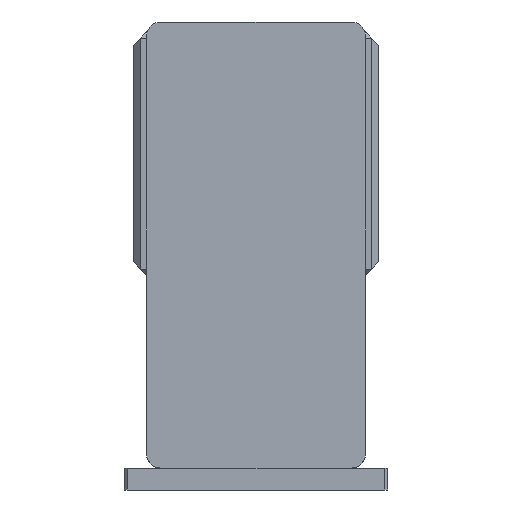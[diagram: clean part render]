
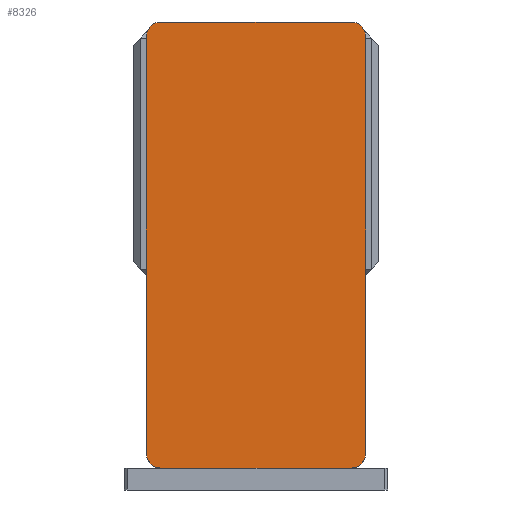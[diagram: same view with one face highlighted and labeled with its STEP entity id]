
A CAD part, left-side view. The second image highlights one B-rep face of the part: STEP entity #8326.
In plain terms, the highlighted planar face has unit normal (-1, 0, 0) as drawn and (0, 0, 1) by its records, which use the part's own axes.
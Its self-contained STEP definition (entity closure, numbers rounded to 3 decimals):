
#24 = CARTESIAN_POINT ( 'NONE',  ( 75., -142.5, 105. ) ) ;
#124 = ORIENTED_EDGE ( 'NONE', *, *, #6040, .T. ) ;
#204 = CARTESIAN_POINT ( 'NONE',  ( 65., -152.5, 105. ) ) ;
#248 = VERTEX_POINT ( 'NONE', #8793 ) ;
#423 = ORIENTED_EDGE ( 'NONE', *, *, #4896, .T. ) ;
#553 = LINE ( 'NONE', #5234, #7544 ) ;
#561 = CARTESIAN_POINT ( 'NONE',  ( 0., 0., 105. ) ) ;
#740 = CARTESIAN_POINT ( 'NONE',  ( -65., -142.5, 105. ) ) ;
#889 = ORIENTED_EDGE ( 'NONE', *, *, #6356, .T. ) ;
#1159 = DIRECTION ( 'NONE',  ( 0., 0., 1. ) ) ;
#1317 = ORIENTED_EDGE ( 'NONE', *, *, #3192, .T. ) ;
#1350 = AXIS2_PLACEMENT_3D ( 'NONE', #740, #7102, #1686 ) ;
#1358 = CIRCLE ( 'NONE', #1350, 10. ) ;
#1511 = DIRECTION ( 'NONE',  ( 1., 0., 0. ) ) ;
#1513 = LINE ( 'NONE', #8277, #8470 ) ;
#1620 = CARTESIAN_POINT ( 'NONE',  ( -65., 152.5, 105. ) ) ;
#1686 = DIRECTION ( 'NONE',  ( 1., 0., 0. ) ) ;
#2784 = ORIENTED_EDGE ( 'NONE', *, *, #6120, .T. ) ;
#2892 = DIRECTION ( 'NONE',  ( 1., 0., 0. ) ) ;
#3002 = LINE ( 'NONE', #8558, #5663 ) ;
#3126 = CIRCLE ( 'NONE', #8508, 10. ) ;
#3162 = VERTEX_POINT ( 'NONE', #3994 ) ;
#3192 = EDGE_CURVE ( 'NONE', #5916, #9025, #553, .T. ) ;
#3401 = DIRECTION ( 'NONE',  ( 0., 0., 1. ) ) ;
#3788 = EDGE_CURVE ( 'NONE', #9950, #9075, #8920, .T. ) ;
#3826 = CIRCLE ( 'NONE', #4709, 10. ) ;
#3994 = CARTESIAN_POINT ( 'NONE',  ( -75., 142.5, 105. ) ) ;
#4215 = CARTESIAN_POINT ( 'NONE',  ( -65., -152.5, 105. ) ) ;
#4350 = DIRECTION ( 'NONE',  ( -1., 0., 0. ) ) ;
#4709 = AXIS2_PLACEMENT_3D ( 'NONE', #8762, #3401, #9695 ) ;
#4896 = EDGE_CURVE ( 'NONE', #3162, #248, #3002, .T. ) ;
#4942 = CARTESIAN_POINT ( 'NONE',  ( 65., 142.5, 105. ) ) ;
#5175 = CARTESIAN_POINT ( 'NONE',  ( -75., 152.5, 105. ) ) ;
#5234 = CARTESIAN_POINT ( 'NONE',  ( 75., 152.5, 105. ) ) ;
#5284 = VERTEX_POINT ( 'NONE', #204 ) ;
#5495 = EDGE_CURVE ( 'NONE', #7802, #5284, #1513, .T. ) ;
#5663 = VECTOR ( 'NONE', #8515, 1000. ) ;
#5872 = DIRECTION ( 'NONE',  ( 1., 0., 0. ) ) ;
#5916 = VERTEX_POINT ( 'NONE', #24 ) ;
#5997 = AXIS2_PLACEMENT_3D ( 'NONE', #561, #6932, #1511 ) ;
#6040 = EDGE_CURVE ( 'NONE', #5284, #5916, #10855, .T. ) ;
#6120 = EDGE_CURVE ( 'NONE', #9025, #9950, #3126, .T. ) ;
#6273 = EDGE_CURVE ( 'NONE', #9075, #3162, #3826, .T. ) ;
#6356 = EDGE_CURVE ( 'NONE', #248, #7802, #1358, .T. ) ;
#6621 = CARTESIAN_POINT ( 'NONE',  ( 65., -142.5, 105. ) ) ;
#6932 = DIRECTION ( 'NONE',  ( 0., 0., 1. ) ) ;
#7102 = DIRECTION ( 'NONE',  ( 0., 0., 1. ) ) ;
#7367 = AXIS2_PLACEMENT_3D ( 'NONE', #6621, #1159, #7514 ) ;
#7514 = DIRECTION ( 'NONE',  ( 1., 0., 0. ) ) ;
#7544 = VECTOR ( 'NONE', #11459, 1000. ) ;
#7802 = VERTEX_POINT ( 'NONE', #4215 ) ;
#8277 = CARTESIAN_POINT ( 'NONE',  ( -75., -152.5, 105. ) ) ;
#8326 = ADVANCED_FACE ( 'NONE', ( #11187 ), #9647, .T. ) ;
#8468 = CARTESIAN_POINT ( 'NONE',  ( 65., 152.5, 105. ) ) ;
#8470 = VECTOR ( 'NONE', #2892, 1000. ) ;
#8508 = AXIS2_PLACEMENT_3D ( 'NONE', #4942, #11243, #5872 ) ;
#8515 = DIRECTION ( 'NONE',  ( 0., -1., 0. ) ) ;
#8558 = CARTESIAN_POINT ( 'NONE',  ( -75., 152.5, 105. ) ) ;
#8762 = CARTESIAN_POINT ( 'NONE',  ( -65., 142.5, 105. ) ) ;
#8781 = CARTESIAN_POINT ( 'NONE',  ( 75., 142.5, 105. ) ) ;
#8793 = CARTESIAN_POINT ( 'NONE',  ( -75., -142.5, 105. ) ) ;
#8920 = LINE ( 'NONE', #5175, #11308 ) ;
#9025 = VERTEX_POINT ( 'NONE', #8781 ) ;
#9075 = VERTEX_POINT ( 'NONE', #1620 ) ;
#9647 = PLANE ( 'NONE',  #5997 ) ;
#9695 = DIRECTION ( 'NONE',  ( 1., 0., 0. ) ) ;
#9950 = VERTEX_POINT ( 'NONE', #8468 ) ;
#10132 = ORIENTED_EDGE ( 'NONE', *, *, #3788, .T. ) ;
#10365 = ORIENTED_EDGE ( 'NONE', *, *, #5495, .T. ) ;
#10855 = CIRCLE ( 'NONE', #7367, 10. ) ;
#11187 = FACE_OUTER_BOUND ( 'NONE', #11403, .T. ) ;
#11243 = DIRECTION ( 'NONE',  ( 0., 0., 1. ) ) ;
#11308 = VECTOR ( 'NONE', #4350, 1000. ) ;
#11403 = EDGE_LOOP ( 'NONE', ( #10365, #124, #1317, #2784, #10132, #11491, #423, #889 ) ) ;
#11459 = DIRECTION ( 'NONE',  ( 0., 1., 0. ) ) ;
#11491 = ORIENTED_EDGE ( 'NONE', *, *, #6273, .T. ) ;
